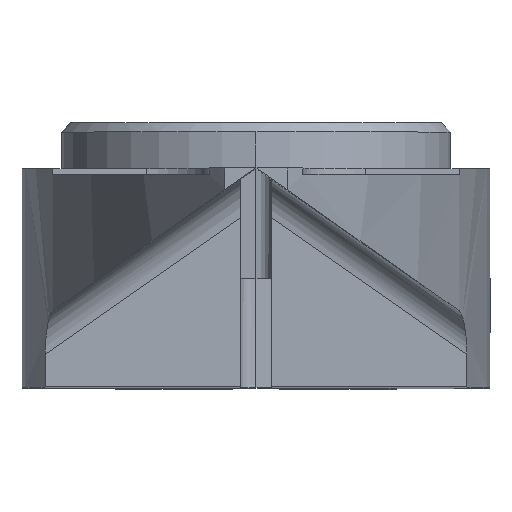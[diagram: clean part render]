
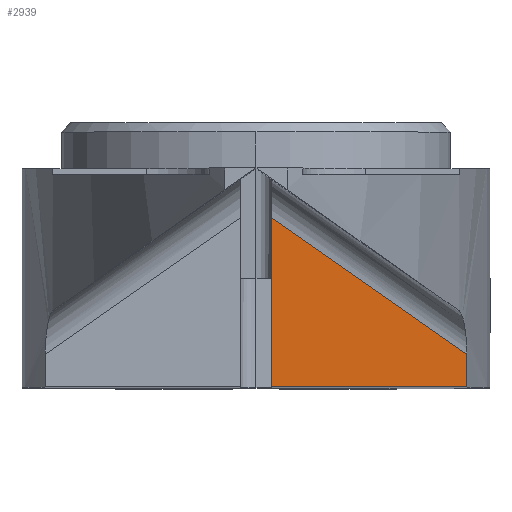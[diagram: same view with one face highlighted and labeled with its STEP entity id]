
A CAD part, top view. The second image highlights one B-rep face of the part: STEP entity #2939.
In plain terms, the highlighted planar face has unit normal (0, 0, 1).
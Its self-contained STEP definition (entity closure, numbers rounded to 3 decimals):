
#67 = ORIENTED_EDGE ( 'NONE', *, *, #3464, .F. ) ;
#585 = LINE ( 'NONE', #1708, #2620 ) ;
#744 = CARTESIAN_POINT ( 'NONE',  ( 0.5, 0., 19. ) ) ;
#787 = EDGE_LOOP ( 'NONE', ( #3114, #3934, #67, #3119 ) ) ;
#809 = DIRECTION ( 'NONE',  ( 0., 1., 0. ) ) ;
#819 = PLANE ( 'NONE',  #1839 ) ;
#1105 = VECTOR ( 'NONE', #4434, 1000. ) ;
#1599 = DIRECTION ( 'NONE',  ( 0., 0., 1. ) ) ;
#1647 = FACE_OUTER_BOUND ( 'NONE', #787, .T. ) ;
#1691 = CARTESIAN_POINT ( 'NONE',  ( 0.5, 5.429, 19. ) ) ;
#1708 = CARTESIAN_POINT ( 'NONE',  ( 6.754, 2.731, 19. ) ) ;
#1775 = LINE ( 'NONE', #3465, #4496 ) ;
#1780 = VERTEX_POINT ( 'NONE', #2015 ) ;
#1839 = AXIS2_PLACEMENT_3D ( 'NONE', #3835, #1599, #4201 ) ;
#1887 = LINE ( 'NONE', #3766, #3761 ) ;
#2015 = CARTESIAN_POINT ( 'NONE',  ( 6.754, 1.05, 19. ) ) ;
#2124 = LINE ( 'NONE', #3357, #1105 ) ;
#2620 = VECTOR ( 'NONE', #4319, 1000. ) ;
#2630 = EDGE_CURVE ( 'NONE', #4683, #1780, #585, .T. ) ;
#2939 = ADVANCED_FACE ( 'NONE', ( #1647 ), #819, .T. ) ;
#3104 = VERTEX_POINT ( 'NONE', #1691 ) ;
#3114 = ORIENTED_EDGE ( 'NONE', *, *, #4542, .F. ) ;
#3119 = ORIENTED_EDGE ( 'NONE', *, *, #2630, .T. ) ;
#3357 = CARTESIAN_POINT ( 'NONE',  ( 3.34, 3.44, 19. ) ) ;
#3464 = EDGE_CURVE ( 'NONE', #4683, #4147, #1887, .T. ) ;
#3465 = CARTESIAN_POINT ( 'NONE',  ( 0.5, 3.5, 19. ) ) ;
#3557 = EDGE_CURVE ( 'NONE', #4147, #3104, #1775, .T. ) ;
#3761 = VECTOR ( 'NONE', #4136, 1000. ) ;
#3766 = CARTESIAN_POINT ( 'NONE',  ( 3.979, 0., 19. ) ) ;
#3778 = CARTESIAN_POINT ( 'NONE',  ( 6.754, 0., 19. ) ) ;
#3835 = CARTESIAN_POINT ( 'NONE',  ( 0.5, 0., 19. ) ) ;
#3934 = ORIENTED_EDGE ( 'NONE', *, *, #3557, .F. ) ;
#4136 = DIRECTION ( 'NONE',  ( -1., 0., 0. ) ) ;
#4147 = VERTEX_POINT ( 'NONE', #744 ) ;
#4201 = DIRECTION ( 'NONE',  ( 1., 0., 0. ) ) ;
#4319 = DIRECTION ( 'NONE',  ( 0., 1., 0. ) ) ;
#4434 = DIRECTION ( 'NONE',  ( 0.819, -0.574, 0. ) ) ;
#4496 = VECTOR ( 'NONE', #809, 1000. ) ;
#4542 = EDGE_CURVE ( 'NONE', #3104, #1780, #2124, .T. ) ;
#4683 = VERTEX_POINT ( 'NONE', #3778 ) ;
